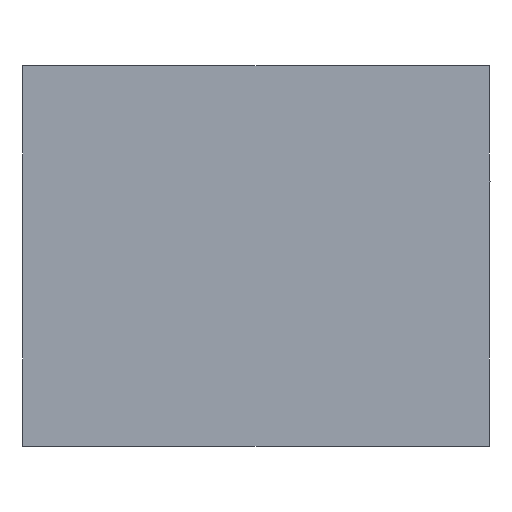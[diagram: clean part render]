
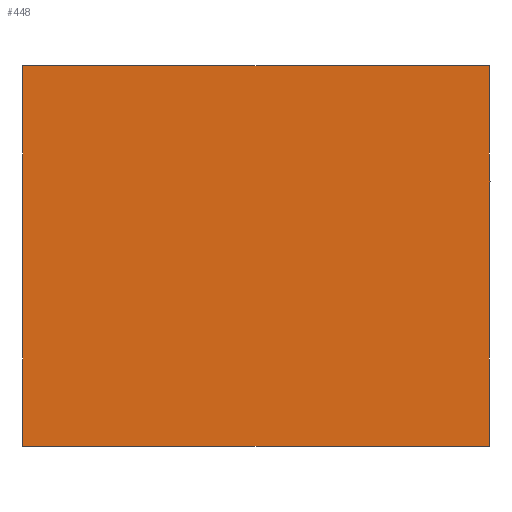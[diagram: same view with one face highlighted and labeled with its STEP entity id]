
A CAD part, left-side view. The second image highlights one B-rep face of the part: STEP entity #448.
In plain terms, the highlighted planar face has unit normal (-1, 0, 0).
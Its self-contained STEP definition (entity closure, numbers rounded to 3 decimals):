
#34=CARTESIAN_POINT('',(13.127,348.549,65.947));
#35=VERTEX_POINT('',#34);
#68=CARTESIAN_POINT('',(13.127,348.56,66.071));
#69=VERTEX_POINT('',#68);
#76=CARTESIAN_POINT('',(13.127,349.249,65.947));
#77=DIRECTION('',(-1.,0.,0.));
#78=DIRECTION('',(0.,-1.,0.));
#79=AXIS2_PLACEMENT_3D('',#76,#77,#78);
#80=CIRCLE('',#79,0.7);
#81=EDGE_CURVE('',#35,#69,#80,.T.);
#124=CARTESIAN_POINT('',(13.127,357.949,62.947));
#125=VERTEX_POINT('',#124);
#158=CARTESIAN_POINT('',(13.127,357.938,62.822));
#159=VERTEX_POINT('',#158);
#166=CARTESIAN_POINT('',(13.127,357.249,62.947));
#167=DIRECTION('',(-1.,0.,0.));
#168=DIRECTION('',(0.,1.,0.));
#169=AXIS2_PLACEMENT_3D('',#166,#167,#168);
#170=CIRCLE('',#169,0.7);
#171=EDGE_CURVE('',#125,#159,#170,.T.);
#214=CARTESIAN_POINT('',(13.127,348.549,62.947));
#215=VERTEX_POINT('',#214);
#229=CARTESIAN_POINT('',(13.127,348.549,65.947));
#230=DIRECTION('',(0.,0.,-1.));
#231=VECTOR('',#230,3.);
#232=LINE('',#229,#231);
#233=EDGE_CURVE('',#35,#215,#232,.T.);
#253=CARTESIAN_POINT('',(13.127,357.949,65.947));
#254=VERTEX_POINT('',#253);
#261=CARTESIAN_POINT('',(13.127,357.938,66.071));
#262=VERTEX_POINT('',#261);
#263=CARTESIAN_POINT('',(13.127,357.249,65.947));
#264=DIRECTION('',(-1.,0.,0.));
#265=DIRECTION('',(0.,0.,1.));
#266=AXIS2_PLACEMENT_3D('',#263,#264,#265);
#267=CIRCLE('',#266,0.7);
#268=EDGE_CURVE('',#262,#254,#267,.T.);
#301=CARTESIAN_POINT('',(13.127,357.949,62.947));
#302=DIRECTION('',(0.,0.,1.));
#303=VECTOR('',#302,3.);
#304=LINE('',#301,#303);
#305=EDGE_CURVE('',#125,#254,#304,.T.);
#324=CARTESIAN_POINT('',(13.127,348.56,62.822));
#325=VERTEX_POINT('',#324);
#326=CARTESIAN_POINT('',(13.127,349.249,62.947));
#327=DIRECTION('',(-1.,0.,0.));
#328=DIRECTION('',(0.,0.,-1.));
#329=AXIS2_PLACEMENT_3D('',#326,#327,#328);
#330=CIRCLE('',#329,0.7);
#331=EDGE_CURVE('',#325,#215,#330,.T.);
#391=CARTESIAN_POINT('',(13.131,0.,0.));
#392=DIRECTION('',(-1.,0.,0.));
#393=DIRECTION('',(0.,-1.,0.));
#394=AXIS2_PLACEMENT_3D('',#391,#392,#393);
#395=PLANE('',#394);
#396=ORIENTED_EDGE('',*,*,#171,.T.);
#397=CARTESIAN_POINT('',(13.127,357.938,60.622));
#398=VERTEX_POINT('',#397);
#399=CARTESIAN_POINT('',(13.127,357.938,62.822));
#400=DIRECTION('',(0.,0.,-1.));
#401=VECTOR('',#400,2.2);
#402=LINE('',#399,#401);
#403=EDGE_CURVE('',#159,#398,#402,.T.);
#404=ORIENTED_EDGE('',*,*,#403,.T.);
#405=CARTESIAN_POINT('',(13.127,348.56,60.622));
#406=VERTEX_POINT('',#405);
#407=CARTESIAN_POINT('',(13.127,357.938,60.622));
#408=DIRECTION('',(0.,-1.,0.));
#409=VECTOR('',#408,9.378);
#410=LINE('',#407,#409);
#411=EDGE_CURVE('',#398,#406,#410,.T.);
#412=ORIENTED_EDGE('',*,*,#411,.T.);
#413=CARTESIAN_POINT('',(13.127,348.56,60.622));
#414=DIRECTION('',(0.,-0.,1.));
#415=VECTOR('',#414,2.2);
#416=LINE('',#413,#415);
#417=EDGE_CURVE('',#406,#325,#416,.T.);
#418=ORIENTED_EDGE('',*,*,#417,.T.);
#419=ORIENTED_EDGE('',*,*,#331,.T.);
#420=ORIENTED_EDGE('',*,*,#233,.F.);
#421=ORIENTED_EDGE('',*,*,#81,.T.);
#422=CARTESIAN_POINT('',(13.127,348.56,68.271));
#423=VERTEX_POINT('',#422);
#424=CARTESIAN_POINT('',(13.127,348.56,66.071));
#425=DIRECTION('',(0.,-0.,1.));
#426=VECTOR('',#425,2.2);
#427=LINE('',#424,#426);
#428=EDGE_CURVE('',#69,#423,#427,.T.);
#429=ORIENTED_EDGE('',*,*,#428,.T.);
#430=CARTESIAN_POINT('',(13.127,357.938,68.271));
#431=VERTEX_POINT('',#430);
#432=CARTESIAN_POINT('',(13.127,348.56,68.271));
#433=DIRECTION('',(0.,1.,-0.));
#434=VECTOR('',#433,9.378);
#435=LINE('',#432,#434);
#436=EDGE_CURVE('',#423,#431,#435,.T.);
#437=ORIENTED_EDGE('',*,*,#436,.T.);
#438=CARTESIAN_POINT('',(13.127,357.938,68.271));
#439=DIRECTION('',(0.,0.,-1.));
#440=VECTOR('',#439,2.2);
#441=LINE('',#438,#440);
#442=EDGE_CURVE('',#431,#262,#441,.T.);
#443=ORIENTED_EDGE('',*,*,#442,.T.);
#444=ORIENTED_EDGE('',*,*,#268,.T.);
#445=ORIENTED_EDGE('',*,*,#305,.F.);
#446=EDGE_LOOP('',(#396,#404,#412,#418,#419,#420,#421,#429,#437,#443,#444,#445));
#447=FACE_BOUND('',#446,.T.);
#448=ADVANCED_FACE('',(#447),#395,.T.);
